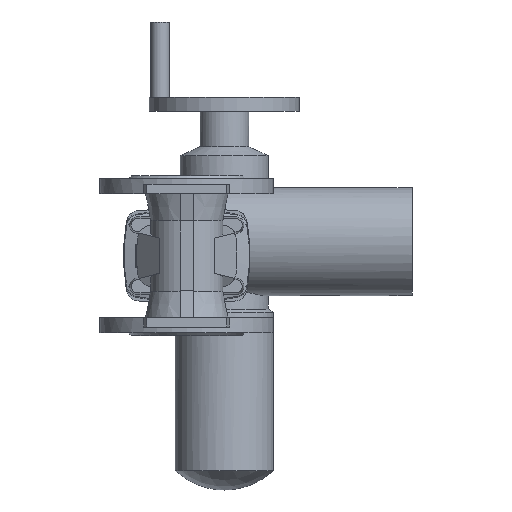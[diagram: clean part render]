
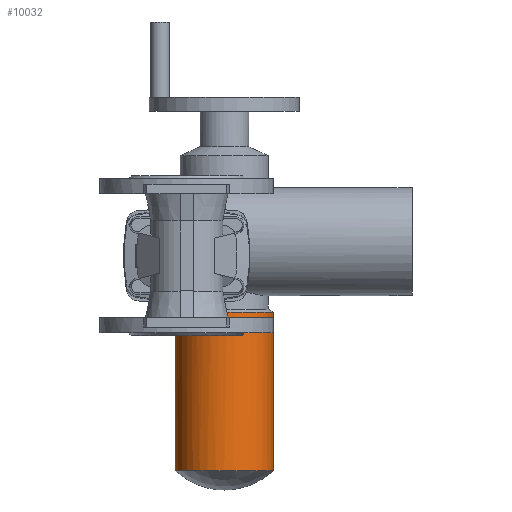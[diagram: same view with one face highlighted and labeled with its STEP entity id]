
A CAD part, front view. The second image highlights one B-rep face of the part: STEP entity #10032.
In plain terms, the highlighted cylindrical face has radius 52.5 mm (diameter 105 mm), a full revolution.
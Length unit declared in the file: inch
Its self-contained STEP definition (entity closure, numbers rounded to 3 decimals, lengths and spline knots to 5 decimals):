
#83 = B_SPLINE_CURVE_WITH_KNOTS ( 'NONE', 3,
 ( #5142, #5141, #5149, #5150, #5151, #5152, #5153, #5154, #5155, #5156, #5157, #5158, #5159, #5160, #6668, #6754, #6755, #6756, #6757, #6758, #6759, #6760, #6761, #6762, #6763, #6764, #6765, #6766, #6767, #6768, #6769, #6770, #6771, #6772, #6773, #6774, #6775, #6776, #6777, #6778, #6779, #6780, #6781, #6782, #6783, #6784, #6785, #6786, #6787, #6788 ),
 .UNSPECIFIED., .F., .F.,
 ( 4, 2, 2, 2, 2, 2, 2, 2, 2, 2, 2, 2, 2, 2, 2, 2, 2, 2, 2, 2, 2, 2, 2, 2, 4 ),
 ( 0.13161, 0.13526, 0.13891, 0.14621, 0.14987, 0.15352, 0.16082, 0.16447, 0.16812, 0.17543, 0.17908, 0.1809, 0.18273, 0.19003, 0.19734, 0.20464, 0.21194, 0.21377, 0.2156, 0.21925, 0.22655, 0.2302, 0.23385, 0.24116, 0.24846 ),
 .UNSPECIFIED. ) ;
#721 = EDGE_LOOP ( 'NONE', ( #3619, #3618 ) ) ;
#774 = EDGE_LOOP ( 'NONE', ( #3620 ) ) ;
#998 = EDGE_CURVE ( 'NONE', #9676, #9676, #3927, .T. ) ;
#1014 = EDGE_CURVE ( 'NONE', #1899, #1898, #83, .T. ) ;
#1898 = VERTEX_POINT ( 'NONE', #8470 ) ;
#1899 = VERTEX_POINT ( 'NONE', #8471 ) ;
#3127 = CARTESIAN_POINT ( 'NONE',  ( 3.64173, 11.9685, -9.01387 ) ) ;
#3618 = ORIENTED_EDGE ( 'NONE', *, *, #1014, .T. ) ;
#3619 = ORIENTED_EDGE ( 'NONE', *, *, #8887, .F. ) ;
#3620 = ORIENTED_EDGE ( 'NONE', *, *, #998, .T. ) ;
#3927 = CIRCLE ( 'NONE', #5966, 2.06693 ) ;
#4965 = CARTESIAN_POINT ( 'NONE',  ( 1.5748, 11.9685, -9.01387 ) ) ;
#4966 = DIRECTION ( 'NONE',  ( 0., 0., 1. ) ) ;
#4967 = DIRECTION ( 'NONE',  ( 1., 0., 0. ) ) ;
#5141 = CARTESIAN_POINT ( 'NONE',  ( 0.62708, 10.13105, -2.37979 ) ) ;
#5142 = CARTESIAN_POINT ( 'NONE',  ( 0.66926, 10.1105, -2.36787 ) ) ;
#5149 = CARTESIAN_POINT ( 'NONE',  ( 0.58486, 10.15343, -2.39049 ) ) ;
#5150 = CARTESIAN_POINT ( 'NONE',  ( 0.5023, 10.20096, -2.40919 ) ) ;
#5151 = CARTESIAN_POINT ( 'NONE',  ( 0.46185, 10.22615, -2.41723 ) ) ;
#5152 = CARTESIAN_POINT ( 'NONE',  ( 0.34306, 10.30594, -2.43792 ) ) ;
#5153 = CARTESIAN_POINT ( 'NONE',  ( 0.26727, 10.36478, -2.44714 ) ) ;
#5154 = CARTESIAN_POINT ( 'NONE',  ( 0.15912, 10.46173, -2.45575 ) ) ;
#5155 = CARTESIAN_POINT ( 'NONE',  ( 0.1239, 10.4956, -2.45774 ) ) ;
#5156 = CARTESIAN_POINT ( 'NONE',  ( 0.05644, 10.56525, -2.46021 ) ) ;
#5157 = CARTESIAN_POINT ( 'NONE',  ( 0.02406, 10.60113, -2.46071 ) ) ;
#5158 = CARTESIAN_POINT ( 'NONE',  ( -0.06907, 10.71185, -2.46044 ) ) ;
#5159 = CARTESIAN_POINT ( 'NONE',  ( -0.12584, 10.78978, -2.45795 ) ) ;
#5160 = CARTESIAN_POINT ( 'NONE',  ( -0.20293, 10.91295, -2.45238 ) ) ;
#5966 = AXIS2_PLACEMENT_3D ( 'NONE', #4965, #4966, #4967 ) ;
#6146 = AXIS2_PLACEMENT_3D ( 'NONE', #7237, #7238, #7239 ) ;
#6668 = CARTESIAN_POINT ( 'NONE',  ( -0.22735, 10.9552, -2.45021 ) ) ;
#6754 = CARTESIAN_POINT ( 'NONE',  ( -0.27285, 11.04076, -2.44556 ) ) ;
#6755 = CARTESIAN_POINT ( 'NONE',  ( -0.29399, 11.08413, -2.44308 ) ) ;
#6756 = CARTESIAN_POINT ( 'NONE',  ( -0.35268, 11.21601, -2.43554 ) ) ;
#6757 = CARTESIAN_POINT ( 'NONE',  ( -0.38554, 11.30627, -2.43039 ) ) ;
#6758 = CARTESIAN_POINT ( 'NONE',  ( -0.42538, 11.44525, -2.42362 ) ) ;
#6759 = CARTESIAN_POINT ( 'NONE',  ( -0.43708, 11.49218, -2.42152 ) ) ;
#6760 = CARTESIAN_POINT ( 'NONE',  ( -0.4522, 11.56349, -2.41873 ) ) ;
#6761 = CARTESIAN_POINT ( 'NONE',  ( -0.45684, 11.58742, -2.41785 ) ) ;
#6762 = CARTESIAN_POINT ( 'NONE',  ( -0.46522, 11.6352, -2.41626 ) ) ;
#6763 = CARTESIAN_POINT ( 'NONE',  ( -0.46898, 11.6591, -2.41553 ) ) ;
#6764 = CARTESIAN_POINT ( 'NONE',  ( -0.48566, 11.77868, -2.41227 ) ) ;
#6765 = CARTESIAN_POINT ( 'NONE',  ( -0.49222, 11.87454, -2.4109 ) ) ;
#6766 = CARTESIAN_POINT ( 'NONE',  ( -0.49203, 12.06667, -2.41094 ) ) ;
#6767 = CARTESIAN_POINT ( 'NONE',  ( -0.48526, 12.16295, -2.41235 ) ) ;
#6768 = CARTESIAN_POINT ( 'NONE',  ( -0.45785, 12.35583, -2.4177 ) ) ;
#6769 = CARTESIAN_POINT ( 'NONE',  ( -0.43753, 12.45012, -2.42157 ) ) ;
#6770 = CARTESIAN_POINT ( 'NONE',  ( -0.3842, 12.63463, -2.4306 ) ) ;
#6771 = CARTESIAN_POINT ( 'NONE',  ( -0.35119, 12.72485, -2.43576 ) ) ;
#6772 = CARTESIAN_POINT ( 'NONE',  ( -0.30185, 12.83508, -2.44207 ) ) ;
#6773 = CARTESIAN_POINT ( 'NONE',  ( -0.29157, 12.857, -2.44332 ) ) ;
#6774 = CARTESIAN_POINT ( 'NONE',  ( -0.2702, 12.90058, -2.44577 ) ) ;
#6775 = CARTESIAN_POINT ( 'NONE',  ( -0.25908, 12.92226, -2.44698 ) ) ;
#6776 = CARTESIAN_POINT ( 'NONE',  ( -0.22475, 12.98641, -2.45045 ) ) ;
#6777 = CARTESIAN_POINT ( 'NONE',  ( -0.20049, 13.02816, -2.45258 ) ) ;
#6778 = CARTESIAN_POINT ( 'NONE',  ( -0.12362, 13.15038, -2.45806 ) ) ;
#6779 = CARTESIAN_POINT ( 'NONE',  ( -0.06698, 13.22786, -2.4605 ) ) ;
#6780 = CARTESIAN_POINT ( 'NONE',  ( 0.02606, 13.33814, -2.46069 ) ) ;
#6781 = CARTESIAN_POINT ( 'NONE',  ( 0.05842, 13.3739, -2.46017 ) ) ;
#6782 = CARTESIAN_POINT ( 'NONE',  ( 0.12592, 13.44339, -2.45764 ) ) ;
#6783 = CARTESIAN_POINT ( 'NONE',  ( 0.16121, 13.47724, -2.45561 ) ) ;
#6784 = CARTESIAN_POINT ( 'NONE',  ( 0.26942, 13.57397, -2.44691 ) ) ;
#6785 = CARTESIAN_POINT ( 'NONE',  ( 0.34504, 13.63249, -2.43763 ) ) ;
#6786 = CARTESIAN_POINT ( 'NONE',  ( 0.50254, 13.73809, -2.41009 ) ) ;
#6787 = CARTESIAN_POINT ( 'NONE',  ( 0.58444, 13.78517, -2.39184 ) ) ;
#6788 = CARTESIAN_POINT ( 'NONE',  ( 0.66926, 13.82651, -2.36787 ) ) ;
#7237 = CARTESIAN_POINT ( 'NONE',  ( 1.5748, 11.9685, -2.36787 ) ) ;
#7238 = DIRECTION ( 'NONE',  ( 0., 0., 1. ) ) ;
#7239 = DIRECTION ( 'NONE',  ( 1., 0., 0. ) ) ;
#7580 = DIRECTION ( 'NONE',  ( 1., 0., 0. ) ) ;
#7581 = CARTESIAN_POINT ( 'NONE',  ( 1.5748, 11.9685, 0.59055 ) ) ;
#7582 = DIRECTION ( 'NONE',  ( 0., 0., 1. ) ) ;
#8470 = CARTESIAN_POINT ( 'NONE',  ( 0.66926, 13.82651, -2.36787 ) ) ;
#8471 = CARTESIAN_POINT ( 'NONE',  ( 0.66926, 10.1105, -2.36787 ) ) ;
#8887 = EDGE_CURVE ( 'NONE', #1899, #1898, #9139, .T. ) ;
#9139 = CIRCLE ( 'NONE', #6146, 2.06693 ) ;
#9235 = FACE_OUTER_BOUND ( 'NONE', #721, .T. ) ;
#9240 = FACE_OUTER_BOUND ( 'NONE', #774, .T. ) ;
#9248 = CYLINDRICAL_SURFACE ( 'NONE', #9778, 2.06693 ) ;
#9676 = VERTEX_POINT ( 'NONE', #3127 ) ;
#9778 = AXIS2_PLACEMENT_3D ( 'NONE', #7581, #7582, #7580 ) ;
#10032 = ADVANCED_FACE ( 'NONE', ( #9240, #9235 ), #9248, .T. ) ;
